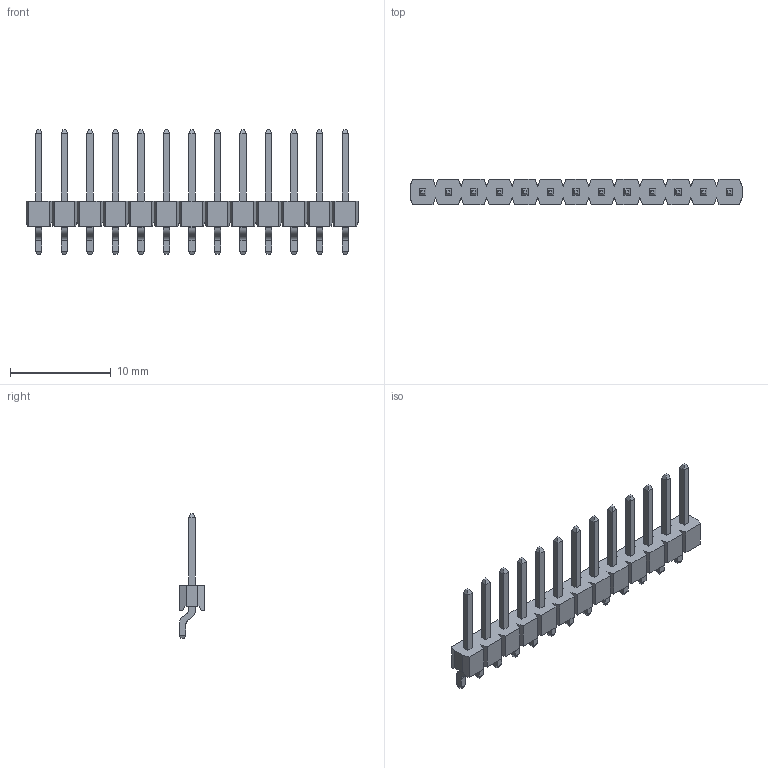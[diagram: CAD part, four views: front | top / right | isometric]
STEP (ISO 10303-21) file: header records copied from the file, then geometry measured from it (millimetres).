
FILE_DESCRIPTION(/* description */ (''),/* implementation_level */ '2;1');
FILE_NAME(/* name */ '961113-5900-XX-XX.stp',/* time_stamp */ '2008-06-11T13:27:38+02:00',/* author */ (''),/* organization */ (''),/* preprocessor_version */ 'ST-DEVELOPER v11',/* originating_system */ 'UGS - NX 5.0',/* authorisation */ '');
FILE_SCHEMA (('AUTOMOTIVE_DESIGN { 1 0 10303 214 1 1 1 1 }'));
Length unit declared in the file: millimetre
Products named in the file (1): 961113-5900-XX-XX
Bounding box: 33.02 x 2.5 x 12.4 mm (x, y, z)
Volume: 227.1 mm3; surface area: 735.1 mm2
Topology: 1 solids, 1 shells, 472 faces, 1228 edges, 784 vertices
Faces by surface type: plane 420, cylinder 52
Entity records: 14128 total; most frequent: CARTESIAN_POINT 2485, ORIENTED_EDGE 2456, DIRECTION 2278, EDGE_CURVE 1228, LINE 1124, VECTOR 1124, VERTEX_POINT 784, AXIS2_PLACEMENT_3D 577
